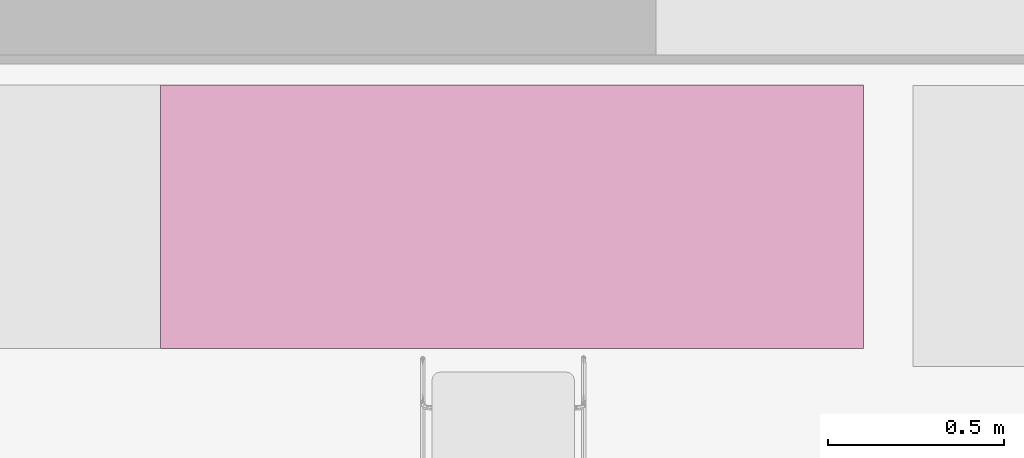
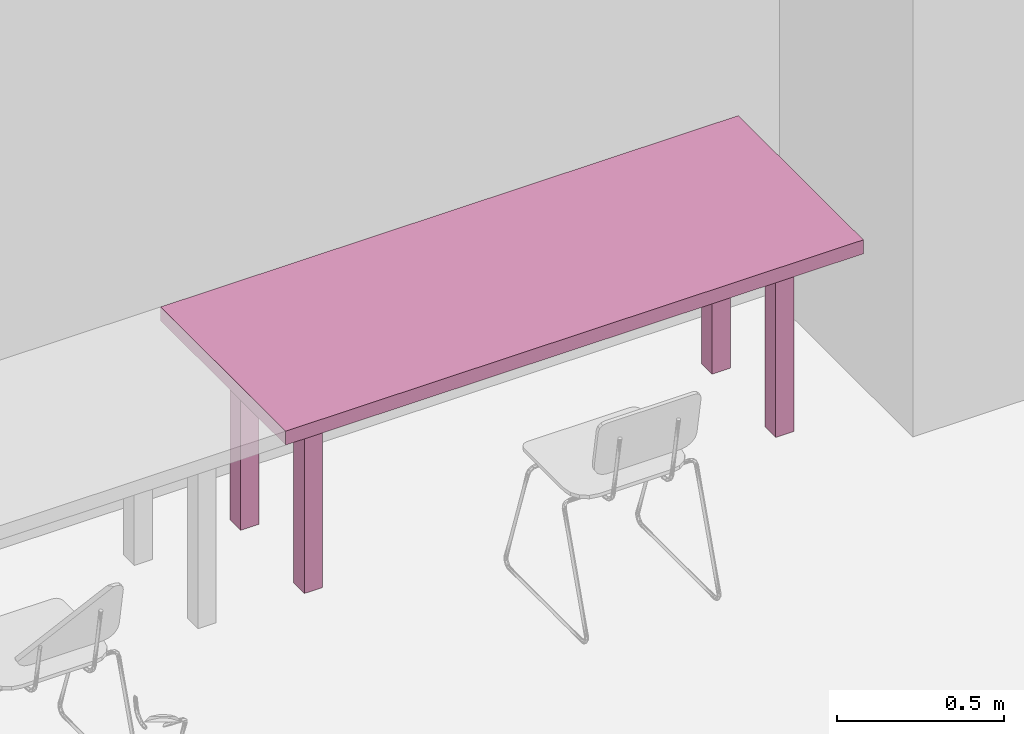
# One storey, part 26 of 27: 1 furnishing.
"""IFC2X3 building model written with IfcOpenShell, lengths in centimetres."""

from ifc_helpers import new_model, entity, si_unit, converted_unit, derived_unit, direction, frame, frame_2d, origin, origin_2d_with_axis, place, context, subcontext, project, spatial, rectangle, extrude, source, transform, mapped, material, material_list, type_object, type_shapes, element, save


model = new_model("IFC2X3")

# Units and contexts
model_context = context("Model", 3, precision=0.001, world=origin(), true_north=direction((6.12303176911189e-17, 1.0)))
body_context = subcontext(model_context, "Body", "Model", "MODEL_VIEW")
ifc_project = project(units=[si_unit("LENGTHUNIT", "METRE", prefix="CENTI"), si_unit("AREAUNIT", "SQUARE_METRE"), si_unit("VOLUMEUNIT", "CUBIC_METRE"), converted_unit("PLANEANGLEUNIT", "DEGREE", entity("IfcRatioMeasure", 0.0174532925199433), si_unit("PLANEANGLEUNIT", "RADIAN"), dimensions=[0, 0, 0, 0, 0, 0, 0]), si_unit("MASSUNIT", "GRAM", prefix="KILO"), derived_unit("MASSDENSITYUNIT", [(si_unit("MASSUNIT", "GRAM", prefix="KILO"), 1), (si_unit("LENGTHUNIT", "METRE"), -3)]), derived_unit("MOMENTOFINERTIAUNIT", [(si_unit("LENGTHUNIT", "METRE"), 4)]), si_unit("TIMEUNIT", "SECOND"), si_unit("FREQUENCYUNIT", "HERTZ"), si_unit("THERMODYNAMICTEMPERATUREUNIT", "DEGREE_CELSIUS"), derived_unit("THERMALTRANSMITTANCEUNIT", [(si_unit("MASSUNIT", "GRAM", prefix="KILO"), 1), (si_unit("THERMODYNAMICTEMPERATUREUNIT", "KELVIN"), -1), (si_unit("TIMEUNIT", "SECOND"), -3)]), derived_unit("VOLUMETRICFLOWRATEUNIT", [(si_unit("LENGTHUNIT", "METRE"), 3), (si_unit("TIMEUNIT", "SECOND"), -1)]), si_unit("ELECTRICCURRENTUNIT", "AMPERE"), si_unit("ELECTRICVOLTAGEUNIT", "VOLT"), si_unit("POWERUNIT", "WATT"), si_unit("FORCEUNIT", "NEWTON", prefix="KILO"), si_unit("ILLUMINANCEUNIT", "LUX"), si_unit("LUMINOUSFLUXUNIT", "LUMEN"), si_unit("LUMINOUSINTENSITYUNIT", "CANDELA"), derived_unit("USERDEFINED", [(si_unit("MASSUNIT", "GRAM", prefix="KILO"), -1), (si_unit("LENGTHUNIT", "METRE"), -2), (si_unit("TIMEUNIT", "SECOND"), 3), (si_unit("LUMINOUSFLUXUNIT", "LUMEN"), 1)]), derived_unit("LINEARVELOCITYUNIT", [(si_unit("LENGTHUNIT", "METRE"), 1), (si_unit("TIMEUNIT", "SECOND"), -1)]), si_unit("PRESSUREUNIT", "PASCAL"), derived_unit("USERDEFINED", [(si_unit("LENGTHUNIT", "METRE"), -2), (si_unit("MASSUNIT", "GRAM", prefix="KILO"), 1), (si_unit("TIMEUNIT", "SECOND"), -2)]), derived_unit("LINEARFORCEUNIT", [(si_unit("MASSUNIT", "GRAM", prefix="KILO"), 1), (si_unit("LENGTHUNIT", "METRE"), 1), (si_unit("TIMEUNIT", "SECOND"), -2), (si_unit("LENGTHUNIT", "METRE"), -1)]), derived_unit("PLANARFORCEUNIT", [(si_unit("MASSUNIT", "GRAM", prefix="KILO"), 1), (si_unit("LENGTHUNIT", "METRE"), 1), (si_unit("TIMEUNIT", "SECOND"), -2), (si_unit("LENGTHUNIT", "METRE"), -2)])], contexts=[model_context])

# Site, building, storey
site_placement = place(None, origin())
site = spatial("IfcSite", under=ifc_project, at=site_placement, Name="Default", CompositionType="ELEMENT")
building_placement = place(site_placement, origin())
building = spatial("IfcBuilding", under=site, at=building_placement, CompositionType="ELEMENT")
storey_placement = place(building_placement, origin())
storey = spatial("IfcBuildingStorey", under=building, at=storey_placement, Name="Poziom 0 A +/-0,00", CompositionType="ELEMENT", Elevation=3.38570427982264e-11)

# Furnishing
ifc_material = material(Name="MDF biały")
ifc_material_list = material_list([ifc_material, ifc_material, ifc_material, ifc_material, ifc_material])
furniture_type = type_object("IfcFurnitureType", Name="Stół - prostokątny:2000 x 750 mm", material=ifc_material_list)
shared_shape = source(origin(), body_context, "Body", "SweptSolid", [
    extrude(rectangle(XDim=200.0, YDim=75.0, at=origin_2d_with_axis()), frame((0.0, 0.0, 68.92), z_axis=(0.0, 0.0, 1.0), x_axis=(-1.0, 0.0, 0.0)), (0.0, 0.0, 1.0), 5.08),
    extrude(rectangle(XDim=6.35000000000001, YDim=6.35000000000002, at=origin_2d_with_axis()), frame((81.585, 19.0850000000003, 0.0), z_axis=(0.0, 0.0, 1.0), x_axis=(0.0, -1.0, 0.0)), (0.0, 0.0, 1.0), 68.92),
    extrude(rectangle(XDim=6.34999999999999, YDim=6.35000000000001, at=frame_2d((1.35447209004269e-14, 0.0), x_axis=(1.0, 0.0))), frame((-81.5849999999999, 19.0850000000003, 0.0), z_axis=(0.0, 0.0, 1.0), x_axis=(-1.0, 0.0, 0.0)), (0.0, 0.0, 1.0), 68.92),
    extrude(rectangle(XDim=6.35, YDim=6.34999999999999, at=origin_2d_with_axis()), frame((-81.585, -19.0850000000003, 0.0), z_axis=(0.0, 0.0, 1.0), x_axis=(0.0, 1.0, 0.0)), (0.0, 0.0, 1.0), 68.92),
    extrude(rectangle(XDim=6.35000000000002, YDim=6.35, at=origin_2d_with_axis()), frame((81.585, -19.0850000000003, 0.0)), (0.0, 0.0, 1.0), 68.92),
])
type_shapes(furniture_type, [shared_shape])
furnishing_placement = place(storey_placement, frame((-2606.7650963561, 1313.10597996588, 0.6)))
element("IfcFurnishingElement", 1, at=furnishing_placement, inside=storey, type_object=furniture_type, material=ifc_material, Name="Stół - prostokątny:2000 x 750 mm", ObjectType="Stół - prostokątny:2000 x 750 mm", context=body_context, shape_type="MappedRepresentation", body=[
    mapped(shared_shape, transform((0.0, 0.0, 0.0), scale=1.0)),
])

save(model, "model.ifc")
